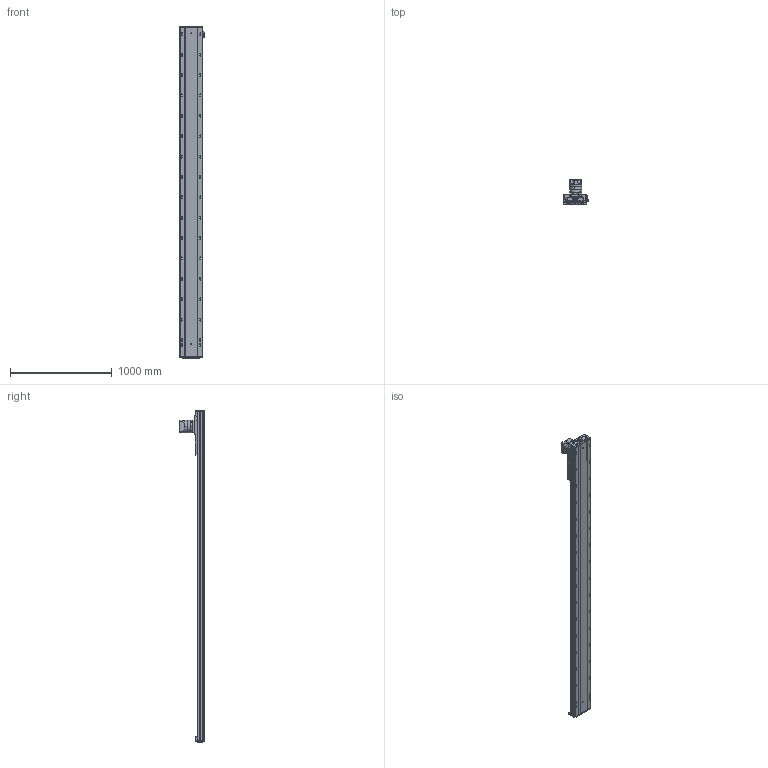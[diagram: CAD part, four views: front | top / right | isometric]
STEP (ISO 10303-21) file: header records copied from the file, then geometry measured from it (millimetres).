
FILE_DESCRIPTION (( 'STEP AP203' ), '1' );
FILE_NAME ('RY220-C-300-UK.SLDASM_2750.step', '2022-08-01T06:00:26', ( '' ), ( '' ), 'SwSTEP 2.0', 'SolidWorks 2016', '' );
FILE_SCHEMA (( 'CONFIG_CONTROL_DESIGN' ));
Length unit declared in the file: millimetre
Products named in the file (10): RY220喘沭俋离覜茼え; RY140直线电机感应器674光电安装座; 覜茼ん674; RY220喘沭賑輸; RY220-齿条模组电机安装板; RY220喘沭綴裔啣; PF115L1-S2-22-58-110-145-M8; 滅袉蝶輸ㄗG412隅秶ㄘ; RY220菁釱MK-300_2750; RY220-C-300-UK.SLDASM_2750
Assembly tree (12 placements, depth 2):
  RY220-C-300-UK.SLDASM_2750
    RY220菁釱MK-300_2750
    RY220喘沭賑輸
    RY220-齿条模组电机安装板
    PF115L1-S2-22-58-110-145-M8
    RY220喘沭綴裔啣  x2
    滅袉蝶輸ㄗG412隅秶ㄘ  x2
    RY140直线电机感应器674光电安装座
    覜茼ん674  x2
    RY220喘沭俋离覜茼え
Bounding box: 247 x 244.5 x 3259 mm (x, y, z)
Volume: 21809425.8 mm3; surface area: 4490950 mm2
Topology: 18 solids, 26 shells, 2384 faces, 6431 edges, 4012 vertices
Faces by surface type: cylinder 1167, plane 751, cone 304, bspline 162
Entity records: 75965 total; most frequent: CARTESIAN_POINT 20620, DIRECTION 11459, ORIENTED_EDGE 11154, EDGE_CURVE 5577, AXIS2_PLACEMENT_3D 4399, VERTEX_POINT 3638, EDGE_LOOP 2803, LINE 2661
